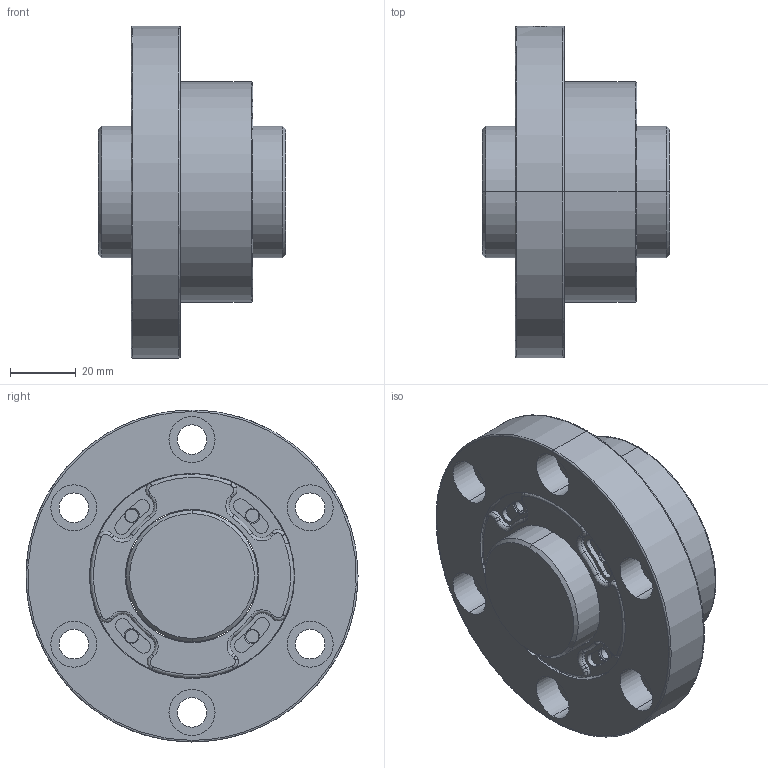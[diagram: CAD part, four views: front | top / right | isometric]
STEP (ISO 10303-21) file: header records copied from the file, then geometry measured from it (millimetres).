
FILE_DESCRIPTION (( 'STEP AP203' ), '1' );
FILE_NAME ('SFVSR04005C1N-C.STEP', '2020-06-17T05:34:00', ( '' ), ( '' ), 'SwSTEP 2.0', 'SolidWorks 2013', '' );
FILE_SCHEMA (( 'CONFIG_CONTROL_DESIGN' ));
Length unit declared in the file: millimetre
Products named in the file (1): SFVSR04005C1N-C
Bounding box: 57 x 101 x 101 mm (x, y, z)
Volume: 203544.6 mm3; surface area: 44954.4 mm2
Topology: 2 solids, 2 shells, 373 faces, 890 edges, 548 vertices
Faces by surface type: cylinder 192, plane 93, bspline 68, cone 20
Entity records: 12895 total; most frequent: CARTESIAN_POINT 4120, DIRECTION 1962, ORIENTED_EDGE 1780, EDGE_CURVE 890, AXIS2_PLACEMENT_3D 844, VERTEX_POINT 548, CIRCLE 538, EDGE_LOOP 418
